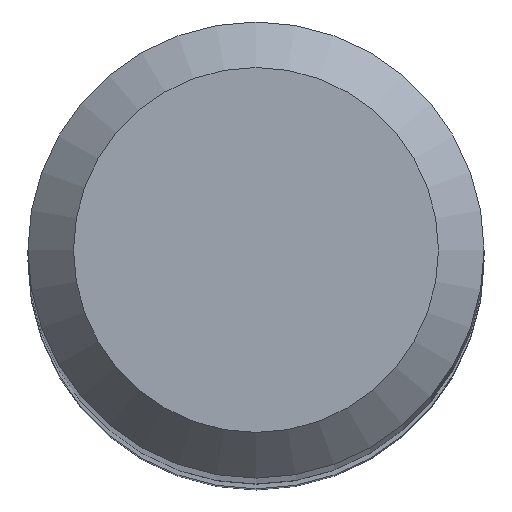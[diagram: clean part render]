
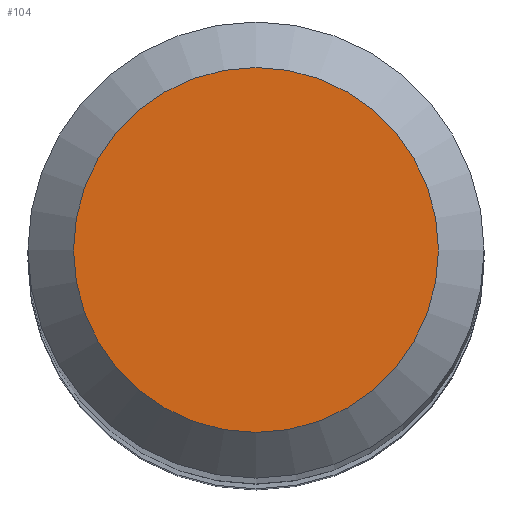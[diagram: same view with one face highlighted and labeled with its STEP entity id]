
A CAD part, top view. The second image highlights one B-rep face of the part: STEP entity #104.
In plain terms, the highlighted planar face has unit normal (0, 0, 1).
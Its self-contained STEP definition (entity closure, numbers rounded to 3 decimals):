
#88=CARTESIAN_POINT('',(4.0,0.0,150.0));
#89=DIRECTION('',(0.0,0.0,1.0));
#90=DIRECTION('',(1.0,0.0,0.0));
#91=AXIS2_PLACEMENT_3D('',#88,#89,#90);
#92=PLANE('',#91);
#93=CARTESIAN_POINT('',(-4.0,0.0,150.0));
#94=VERTEX_POINT('',#93);
#95=CARTESIAN_POINT('',(0.0,0.0,150.0));
#96=DIRECTION('',(0.0,0.0,-1.0));
#97=DIRECTION('',(-1.0,0.0,0.0));
#98=AXIS2_PLACEMENT_3D('',#95,#96,#97);
#99=CIRCLE('',#98,4.0);
#100=EDGE_CURVE('',#94,#94,#99,.T.);
#101=ORIENTED_EDGE('',*,*,#100,.F.);
#102=EDGE_LOOP('',(#101));
#103=FACE_OUTER_BOUND('',#102,.T.);
#104=ADVANCED_FACE('',(#103),#92,.T.);
